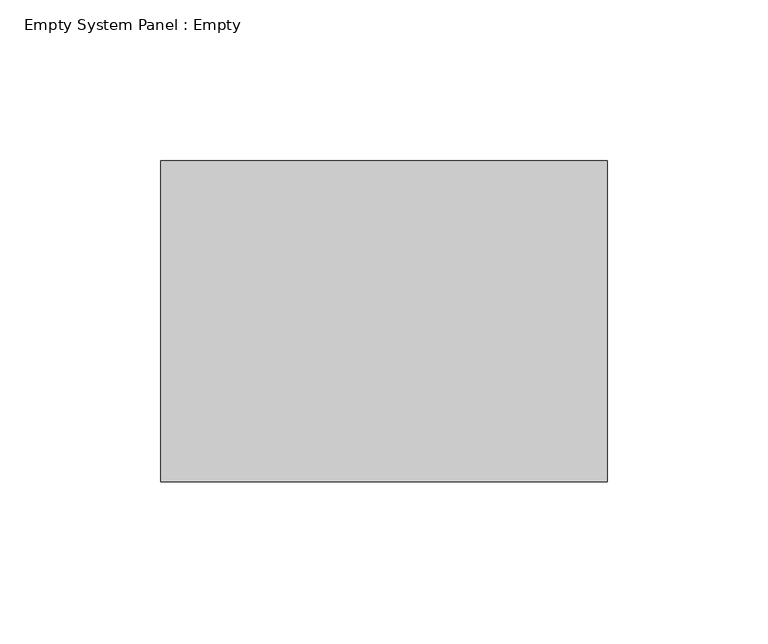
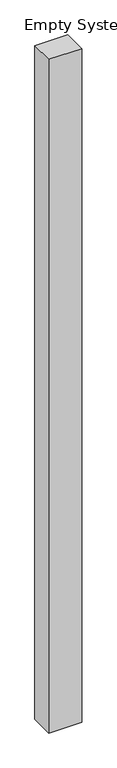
"""IFC4 building model written with IfcOpenShell, lengths in millimetres: plate geometry, Empty System Panel : Empty."""

import ifcopenshell
import ifcopenshell.guid

model = None  # the IFC model being written
_history = None  # IfcOwnerHistory: only IFC2X3 demands one
_inside = {}  # id of a spatial element -> (the spatial element, [elements in it])
_under = {}  # id of a project, library or spatial element -> (it, [spatial elements below it])
_declared = {}  # id of a project -> (the project, [libraries it declares])
_typed = {}  # id of a type object -> (the type object, [elements of that type])
_made_of = {}  # id of a material, layer set ... -> (it, [elements and type objects made of it])


def new_model(schema):
    """Start an empty IFC model of exactly this schema.

    Asked for "IFC4X3", IfcOpenShell would pick the latest addendum, in which some entities
    have other attributes; the version numbers below select the first issue.
    IFC2X3 requires an IfcOwnerHistory on every rooted entity: one is made here for all.
    """
    global model, _history
    if schema == "IFC4X3":
        model = ifcopenshell.file(schema_version=(4, 3, 0, 0))
    else:
        model = ifcopenshell.file(schema=schema)
    _inside.clear()
    _under.clear()
    _declared.clear()
    _typed.clear()
    _made_of.clear()
    _history = None
    if model.schema == "IFC2X3":
        org = make("IfcOrganization", Name="unknown")
        user = make(
            "IfcPersonAndOrganization",
            ThePerson=make("IfcPerson", FamilyName="unknown"),
            TheOrganization=org,
        )
        app = make(
            "IfcApplication",
            ApplicationDeveloper=org,
            Version="unknown",
            ApplicationFullName="unknown",
            ApplicationIdentifier="unknown",
        )
        _history = make(
            "IfcOwnerHistory",
            OwningUser=user,
            OwningApplication=app,
            ChangeAction="ADDED",
            CreationDate=0,
        )
    return model


def make(cls, **values):
    """One entity of the class cls with the attributes given. An attribute that is None is left unset."""
    return model.create_entity(
        cls, **{name: value for name, value in values.items() if value is not None}
    )


def rooted(cls, **values):
    """An entity with a GlobalId (a new one), such as an element, a storey or a relation."""
    return make(cls, GlobalId=ifcopenshell.guid.new(), OwnerHistory=_history, **values)


def si_unit(unit_type, name, prefix=None):
    """IfcSIUnit, for example si_unit("LENGTHUNIT", "METRE", prefix="MILLI")."""
    return make("IfcSIUnit", UnitType=unit_type, Prefix=prefix, Name=name)


def assignment(units):
    """IfcUnitAssignment: the units of a project."""
    return None if units is None else make("IfcUnitAssignment", Units=units)


def point(xyz):
    """IfcCartesianPoint."""
    return None if xyz is None else make("IfcCartesianPoint", Coordinates=xyz)


def direction(xyz):
    """IfcDirection."""
    return None if xyz is None else make("IfcDirection", DirectionRatios=xyz)


def frame(location, z_axis=None, x_axis=None):
    """IfcAxis2Placement3D, a coordinate frame: its origin and axes. An axis left out is left unset."""
    return make(
        "IfcAxis2Placement3D",
        Location=point(location),
        Axis=direction(z_axis),
        RefDirection=direction(x_axis),
    )


def origin():
    """The frame at (0, 0, 0) with its axes left unset."""
    return frame((0.0, 0.0, 0.0))


def origin_with_axes():
    """The frame at (0, 0, 0) with the z axis (0, 0, 1) and the x axis (1, 0, 0) written out."""
    return frame((0.0, 0.0, 0.0), z_axis=(0.0, 0.0, 1.0), x_axis=(1.0, 0.0, 0.0))


def place(relative_to, where):
    """IfcLocalPlacement: puts the frame where relative to a parent placement (None: the world)."""
    return make(
        "IfcLocalPlacement", PlacementRelTo=relative_to, RelativePlacement=where
    )


def context(
    kind, dimensions, precision=None, world=None, true_north=None, identifier=None
):
    """IfcGeometricRepresentationContext, for example the 3D "Model" context."""
    return make(
        "IfcGeometricRepresentationContext",
        ContextIdentifier=identifier,
        ContextType=kind,
        CoordinateSpaceDimension=dimensions,
        Precision=precision,
        WorldCoordinateSystem=world,
        TrueNorth=true_north,
    )


def project(units=None, contexts=None):
    """IfcProject with its units and contexts."""
    return rooted(
        "IfcProject",
        Name="project",
        RepresentationContexts=contexts,
        UnitsInContext=assignment(units),
    )


def spatial(cls, under=None, at=None, **own):
    """A site, building, storey or space (cls), placed at a placement, below another one or the project."""
    s = rooted(cls, ObjectPlacement=at, **own)
    if under is not None:
        _under.setdefault(under.id(), (under, []))[1].append(s)
    return s


def polyline(points):
    """IfcPolyline through the points."""
    return make("IfcPolyline", Points=[point(p) for p in points])


def outline(outer, holes=None, kind="AREA"):
    """IfcArbitraryClosedProfileDef: a profile drawn as a closed curve; with holes, ...WithVoids."""
    if holes is None:
        return make("IfcArbitraryClosedProfileDef", ProfileType=kind, OuterCurve=outer)
    return make(
        "IfcArbitraryProfileDefWithVoids",
        ProfileType=kind,
        OuterCurve=outer,
        InnerCurves=holes,
    )


def extrude(swept, where, along, depth):
    """IfcExtrudedAreaSolid: the profile swept, set in the frame where, extruded along a direction by depth."""
    return make(
        "IfcExtrudedAreaSolid",
        SweptArea=swept,
        Position=where,
        ExtrudedDirection=direction(along),
        Depth=depth,
    )


def shape(context_of_items, identifier, shape_type, items):
    """IfcShapeRepresentation: the items that make up one representation, for example the "Body"."""
    return make(
        "IfcShapeRepresentation",
        ContextOfItems=context_of_items,
        RepresentationIdentifier=identifier,
        RepresentationType=shape_type,
        Items=items,
    )


def source(mapping_origin, context_of_items, identifier, shape_type, items):
    """IfcRepresentationMap: a shape defined once, which mapped items show again and again."""
    return make(
        "IfcRepresentationMap",
        MappingOrigin=mapping_origin,
        MappedRepresentation=shape(context_of_items, identifier, shape_type, items),
    )


def transform(
    local_origin,
    x_axis=None,
    y_axis=None,
    z_axis=None,
    scale=None,
    scale2=None,
    scale3=None,
    uniform=True,
):
    """IfcCartesianTransformationOperator3D, or its non-uniform kind. x_axis, y_axis, z_axis: its Axis1, 2, 3."""
    if uniform:
        return make(
            "IfcCartesianTransformationOperator3D",
            Axis1=direction(x_axis),
            Axis2=direction(y_axis),
            LocalOrigin=point(local_origin),
            Scale=scale,
            Axis3=direction(z_axis),
        )
    return make(
        "IfcCartesianTransformationOperator3DnonUniform",
        Axis1=direction(x_axis),
        Axis2=direction(y_axis),
        LocalOrigin=point(local_origin),
        Scale=scale,
        Axis3=direction(z_axis),
        Scale2=scale2,
        Scale3=scale3,
    )


def mapped(mapping_source, mapping_target):
    """IfcMappedItem: shows the shape of a source again, moved by a transform."""
    return make(
        "IfcMappedItem", MappingSource=mapping_source, MappingTarget=mapping_target
    )


def made_of(thing, what):
    """Note that an element or type object is made of a material, layer set ...; save() writes the relation."""
    if what is not None:
        _made_of.setdefault(what.id(), (what, []))[1].append(thing)
    return thing


def element(
    cls,
    number,
    at=None,
    inside=None,
    cuts=None,
    type_object=None,
    material=None,
    context=None,
    identifier="Body",
    shape_type=None,
    held_by="IfcProductDefinitionShape",
    body=None,
    shapes=None,
    **own,
):
    """One element of the class cls, such as IfcWall. Its Tag is "e" and its number.

    at: its placement. inside: the storey or other place that contains it. cuts: it is an
    opening in that element (IfcRelVoidsElement). A single representation is given by context,
    identifier, shape_type and body (its items); several are given by shapes. held_by: the class
    of the entity that holds the representations. save() writes the other relations.
    """
    e = rooted(cls, Tag="e%d" % number, ObjectPlacement=at, **own)
    if body is not None:
        shapes = [shape(context, identifier, shape_type, body)]
    if shapes is not None:
        e.Representation = make(held_by, Representations=shapes)
    if inside is not None:
        _inside.setdefault(inside.id(), (inside, []))[1].append(e)
    if cuts is not None:
        rooted(
            "IfcRelVoidsElement", RelatingBuildingElement=cuts, RelatedOpeningElement=e
        )
    if type_object is not None:
        _typed.setdefault(type_object.id(), (type_object, []))[1].append(e)
    return made_of(e, material)


def aggregate(whole, parts):
    """IfcRelAggregates: a whole, such as a stair, and the parts it consists of."""
    return rooted("IfcRelAggregates", RelatingObject=whole, RelatedObjects=parts)


def save(model, path):
    """Write the relations noted so far, then the file.

    IfcRelAggregates (storeys below a building ...), IfcRelContainedInSpatialStructure (elements
    in a storey), IfcRelDefinesByType, IfcRelAssociatesMaterial and IfcRelDeclares: one each for
    every whole, place, type object, material and project.
    """
    for whole, parts in _under.values():
        aggregate(whole, parts)
    for where, things in _inside.values():
        rooted(
            "IfcRelContainedInSpatialStructure",
            RelatedElements=things,
            RelatingStructure=where,
        )
    for kind, things in _typed.values():
        rooted("IfcRelDefinesByType", RelatedObjects=things, RelatingType=kind)
    for what, things in _made_of.values():
        rooted("IfcRelAssociatesMaterial", RelatedObjects=things, RelatingMaterial=what)
    for by, libraries in _declared.values():
        rooted("IfcRelDeclares", RelatingContext=by, RelatedDefinitions=libraries)
    model.write(path)


def empty_system_panel_empty_de2abd15(model_context):
    return source(origin(), model_context, "Body", "SweptSolid", [
        extrude(outline(polyline([(69.5939026, 50.0), (-69.5939026, 50.0), (-69.5939026, 150.0), (69.5939026, 150.0), (69.5939026, 50.0)])), origin_with_axes(), (0.0, 0.0, 1.0), 3000.0),
    ])


if __name__ == "__main__":
    model = new_model("IFC4")
    model_context = context("Model", 3, world=origin())
    ifc_project = project(units=[si_unit("LENGTHUNIT", "METRE", prefix="MILLI")], contexts=[model_context])
    site = spatial("IfcSite", under=ifc_project)
    building = spatial("IfcBuilding", under=site)
    placement = place(None, origin())
    empty_system_panel_empty_shape = empty_system_panel_empty_de2abd15(model_context)
    element("IfcPlate", 1, ObjectType="Empty System Panel : Empty", at=placement, inside=building, context=model_context, shape_type="MappedRepresentation", body=[
        mapped(empty_system_panel_empty_shape, transform((0.0, 0.0, 0.0), x_axis=(1.0, 0.0, 0.0), y_axis=(0.0, 1.0, 0.0), z_axis=(0.0, 0.0, 1.0))),
    ])
    save(model, "model.ifc")
